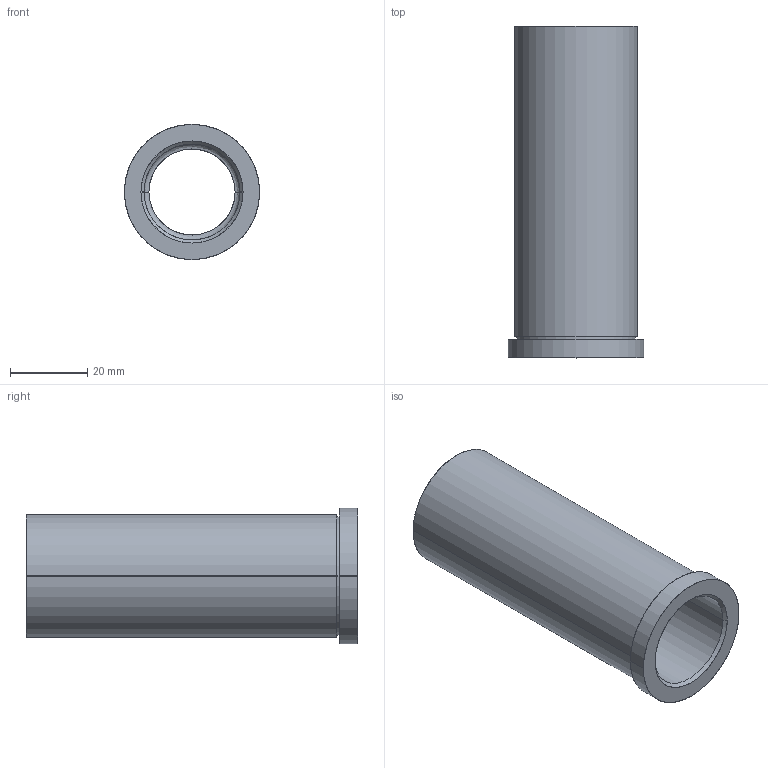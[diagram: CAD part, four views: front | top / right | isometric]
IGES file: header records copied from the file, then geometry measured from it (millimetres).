
Start section: SolidWorks IGES file using analytic representation for surfaces
Global section: file name: C:\Users\Ryan\Documents\PCS\Shoulder Bushings\BU-205.igs; native system: SolidWorks 2009; preprocessor: SolidWorks 2009; author: Ryan; date: 140226.220504; units: inch
Bounding box: 34.92 x 85.72 x 34.92 mm (x, y, z)
Surface area: 16033 mm2 (no closed solid volume)
Topology: 0 solids, 0 shells, 20 faces, 512 edges, 512 vertices
Faces by surface type: revolution 12, bspline 8
